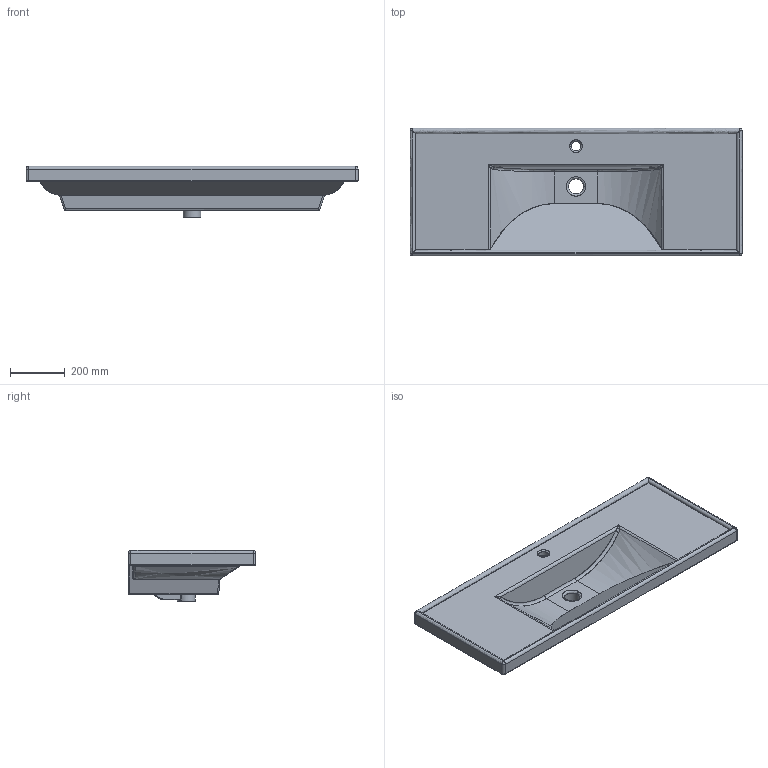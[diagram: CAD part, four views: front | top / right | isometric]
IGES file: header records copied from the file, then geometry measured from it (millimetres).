
Start section: C
Global section: file name: ML 120x47 Con Vasca Singola.igs; native system:  By UGS Corp.; preprocessor: XPlus GENERIC/IGES 3.0; author: Author; organization: Title; date: 20120604.151752; units: millimetre
Bounding box: 1210 x 465 x 187 mm (x, y, z)
Surface area: 1853711.4 mm2 (no closed solid volume)
Topology: 0 solids, 0 shells, 350 faces, 1637 edges, 1600 vertices
Faces by surface type: bspline 350
